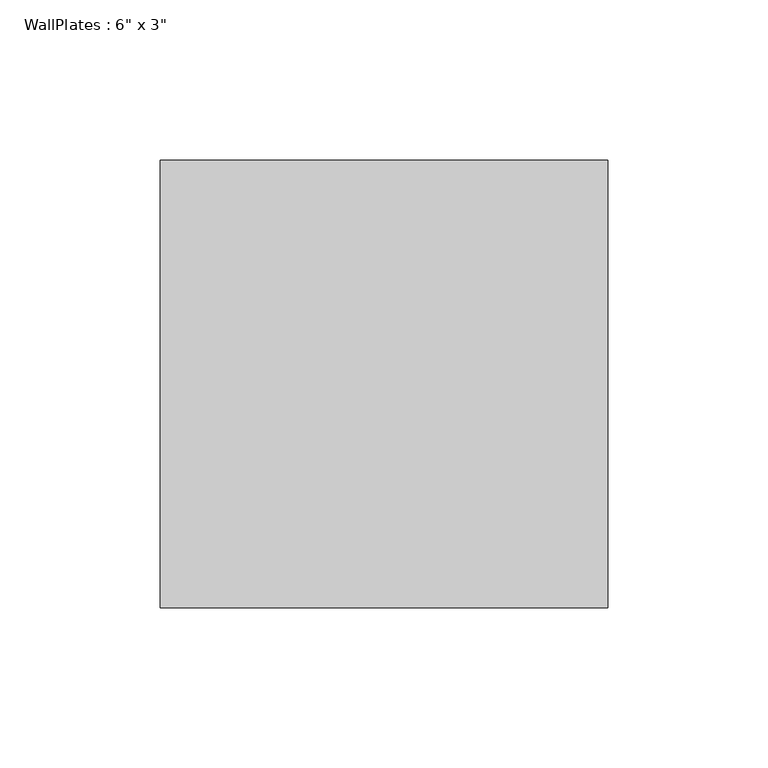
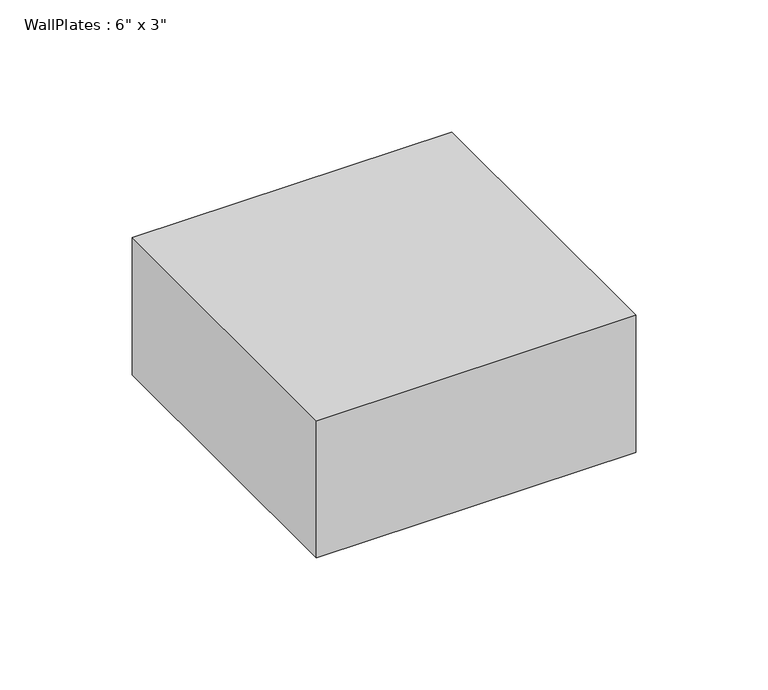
"""IFC4 building model written with IfcOpenShell, lengths in millimetres: beam geometry."""

import ifcopenshell
import ifcopenshell.guid

model = None  # the IFC model being written
_history = None  # IfcOwnerHistory: only IFC2X3 demands one
_inside = {}  # id of a spatial element -> (the spatial element, [elements in it])
_under = {}  # id of a project, library or spatial element -> (it, [spatial elements below it])
_declared = {}  # id of a project -> (the project, [libraries it declares])
_typed = {}  # id of a type object -> (the type object, [elements of that type])
_made_of = {}  # id of a material, layer set ... -> (it, [elements and type objects made of it])


def new_model(schema):
    """Start an empty IFC model of exactly this schema.

    Asked for "IFC4X3", IfcOpenShell would pick the latest addendum, in which some entities
    have other attributes; the version numbers below select the first issue.
    IFC2X3 requires an IfcOwnerHistory on every rooted entity: one is made here for all.
    """
    global model, _history
    if schema == "IFC4X3":
        model = ifcopenshell.file(schema_version=(4, 3, 0, 0))
    else:
        model = ifcopenshell.file(schema=schema)
    _inside.clear()
    _under.clear()
    _declared.clear()
    _typed.clear()
    _made_of.clear()
    _history = None
    if model.schema == "IFC2X3":
        org = make("IfcOrganization", Name="unknown")
        user = make(
            "IfcPersonAndOrganization",
            ThePerson=make("IfcPerson", FamilyName="unknown"),
            TheOrganization=org,
        )
        app = make(
            "IfcApplication",
            ApplicationDeveloper=org,
            Version="unknown",
            ApplicationFullName="unknown",
            ApplicationIdentifier="unknown",
        )
        _history = make(
            "IfcOwnerHistory",
            OwningUser=user,
            OwningApplication=app,
            ChangeAction="ADDED",
            CreationDate=0,
        )
    return model


def make(cls, **values):
    """One entity of the class cls with the attributes given. An attribute that is None is left unset."""
    return model.create_entity(
        cls, **{name: value for name, value in values.items() if value is not None}
    )


def rooted(cls, **values):
    """An entity with a GlobalId (a new one), such as an element, a storey or a relation."""
    return make(cls, GlobalId=ifcopenshell.guid.new(), OwnerHistory=_history, **values)


def si_unit(unit_type, name, prefix=None):
    """IfcSIUnit, for example si_unit("LENGTHUNIT", "METRE", prefix="MILLI")."""
    return make("IfcSIUnit", UnitType=unit_type, Prefix=prefix, Name=name)


def assignment(units):
    """IfcUnitAssignment: the units of a project."""
    return None if units is None else make("IfcUnitAssignment", Units=units)


def point(xyz):
    """IfcCartesianPoint."""
    return None if xyz is None else make("IfcCartesianPoint", Coordinates=xyz)


def direction(xyz):
    """IfcDirection."""
    return None if xyz is None else make("IfcDirection", DirectionRatios=xyz)


def frame(location, z_axis=None, x_axis=None):
    """IfcAxis2Placement3D, a coordinate frame: its origin and axes. An axis left out is left unset."""
    return make(
        "IfcAxis2Placement3D",
        Location=point(location),
        Axis=direction(z_axis),
        RefDirection=direction(x_axis),
    )


def origin():
    """The frame at (0, 0, 0) with its axes left unset."""
    return frame((0.0, 0.0, 0.0))


def place(relative_to, where):
    """IfcLocalPlacement: puts the frame where relative to a parent placement (None: the world)."""
    return make(
        "IfcLocalPlacement", PlacementRelTo=relative_to, RelativePlacement=where
    )


def context(
    kind, dimensions, precision=None, world=None, true_north=None, identifier=None
):
    """IfcGeometricRepresentationContext, for example the 3D "Model" context."""
    return make(
        "IfcGeometricRepresentationContext",
        ContextIdentifier=identifier,
        ContextType=kind,
        CoordinateSpaceDimension=dimensions,
        Precision=precision,
        WorldCoordinateSystem=world,
        TrueNorth=true_north,
    )


def project(units=None, contexts=None):
    """IfcProject with its units and contexts."""
    return rooted(
        "IfcProject",
        Name="project",
        RepresentationContexts=contexts,
        UnitsInContext=assignment(units),
    )


def spatial(cls, under=None, at=None, **own):
    """A site, building, storey or space (cls), placed at a placement, below another one or the project."""
    s = rooted(cls, ObjectPlacement=at, **own)
    if under is not None:
        _under.setdefault(under.id(), (under, []))[1].append(s)
    return s


def polyline(points):
    """IfcPolyline through the points."""
    return make("IfcPolyline", Points=[point(p) for p in points])


def outline(outer, holes=None, kind="AREA"):
    """IfcArbitraryClosedProfileDef: a profile drawn as a closed curve; with holes, ...WithVoids."""
    if holes is None:
        return make("IfcArbitraryClosedProfileDef", ProfileType=kind, OuterCurve=outer)
    return make(
        "IfcArbitraryProfileDefWithVoids",
        ProfileType=kind,
        OuterCurve=outer,
        InnerCurves=holes,
    )


def extrude(swept, where, along, depth):
    """IfcExtrudedAreaSolid: the profile swept, set in the frame where, extruded along a direction by depth."""
    return make(
        "IfcExtrudedAreaSolid",
        SweptArea=swept,
        Position=where,
        ExtrudedDirection=direction(along),
        Depth=depth,
    )


def shape(context_of_items, identifier, shape_type, items):
    """IfcShapeRepresentation: the items that make up one representation, for example the "Body"."""
    return make(
        "IfcShapeRepresentation",
        ContextOfItems=context_of_items,
        RepresentationIdentifier=identifier,
        RepresentationType=shape_type,
        Items=items,
    )


def source(mapping_origin, context_of_items, identifier, shape_type, items):
    """IfcRepresentationMap: a shape defined once, which mapped items show again and again."""
    return make(
        "IfcRepresentationMap",
        MappingOrigin=mapping_origin,
        MappedRepresentation=shape(context_of_items, identifier, shape_type, items),
    )


def transform(
    local_origin,
    x_axis=None,
    y_axis=None,
    z_axis=None,
    scale=None,
    scale2=None,
    scale3=None,
    uniform=True,
):
    """IfcCartesianTransformationOperator3D, or its non-uniform kind. x_axis, y_axis, z_axis: its Axis1, 2, 3."""
    if uniform:
        return make(
            "IfcCartesianTransformationOperator3D",
            Axis1=direction(x_axis),
            Axis2=direction(y_axis),
            LocalOrigin=point(local_origin),
            Scale=scale,
            Axis3=direction(z_axis),
        )
    return make(
        "IfcCartesianTransformationOperator3DnonUniform",
        Axis1=direction(x_axis),
        Axis2=direction(y_axis),
        LocalOrigin=point(local_origin),
        Scale=scale,
        Axis3=direction(z_axis),
        Scale2=scale2,
        Scale3=scale3,
    )


def mapped(mapping_source, mapping_target):
    """IfcMappedItem: shows the shape of a source again, moved by a transform."""
    return make(
        "IfcMappedItem", MappingSource=mapping_source, MappingTarget=mapping_target
    )


def made_of(thing, what):
    """Note that an element or type object is made of a material, layer set ...; save() writes the relation."""
    if what is not None:
        _made_of.setdefault(what.id(), (what, []))[1].append(thing)
    return thing


def element(
    cls,
    number,
    at=None,
    inside=None,
    cuts=None,
    type_object=None,
    material=None,
    context=None,
    identifier="Body",
    shape_type=None,
    held_by="IfcProductDefinitionShape",
    body=None,
    shapes=None,
    **own,
):
    """One element of the class cls, such as IfcWall. Its Tag is "e" and its number.

    at: its placement. inside: the storey or other place that contains it. cuts: it is an
    opening in that element (IfcRelVoidsElement). A single representation is given by context,
    identifier, shape_type and body (its items); several are given by shapes. held_by: the class
    of the entity that holds the representations. save() writes the other relations.
    """
    e = rooted(cls, Tag="e%d" % number, ObjectPlacement=at, **own)
    if body is not None:
        shapes = [shape(context, identifier, shape_type, body)]
    if shapes is not None:
        e.Representation = make(held_by, Representations=shapes)
    if inside is not None:
        _inside.setdefault(inside.id(), (inside, []))[1].append(e)
    if cuts is not None:
        rooted(
            "IfcRelVoidsElement", RelatingBuildingElement=cuts, RelatedOpeningElement=e
        )
    if type_object is not None:
        _typed.setdefault(type_object.id(), (type_object, []))[1].append(e)
    return made_of(e, material)


def aggregate(whole, parts):
    """IfcRelAggregates: a whole, such as a stair, and the parts it consists of."""
    return rooted("IfcRelAggregates", RelatingObject=whole, RelatedObjects=parts)


def save(model, path):
    """Write the relations noted so far, then the file.

    IfcRelAggregates (storeys below a building ...), IfcRelContainedInSpatialStructure (elements
    in a storey), IfcRelDefinesByType, IfcRelAssociatesMaterial and IfcRelDeclares: one each for
    every whole, place, type object, material and project.
    """
    for whole, parts in _under.values():
        aggregate(whole, parts)
    for where, things in _inside.values():
        rooted(
            "IfcRelContainedInSpatialStructure",
            RelatedElements=things,
            RelatingStructure=where,
        )
    for kind, things in _typed.values():
        rooted("IfcRelDefinesByType", RelatedObjects=things, RelatingType=kind)
    for what, things in _made_of.values():
        rooted("IfcRelAssociatesMaterial", RelatedObjects=things, RelatingMaterial=what)
    for by, libraries in _declared.values():
        rooted("IfcRelDeclares", RelatingContext=by, RelatedDefinitions=libraries)
    model.write(path)


def beam_8976df93(model_context):
    return source(origin(), model_context, "Body", "SweptSolid", [
        extrude(outline(polyline([(-69.855, -69.85), (-69.855, 69.85), (69.855, 69.85), (69.855, -69.85), (-69.855, -69.85)])), frame((0.0, 0.0, -31.75), z_axis=(0.0, 0.0, 1.0), x_axis=(1.0, 0.0, 0.0)), (0.0, 0.0, 1.0), 63.5),
    ])


if __name__ == "__main__":
    model = new_model("IFC4")
    model_context = context("Model", 3, world=origin())
    ifc_project = project(units=[si_unit("LENGTHUNIT", "METRE", prefix="MILLI")], contexts=[model_context])
    site = spatial("IfcSite", under=ifc_project)
    building = spatial("IfcBuilding", under=site)
    placement = place(None, origin())
    beam_shape = beam_8976df93(model_context)
    element("IfcBeam", 1, ObjectType="WallPlates : 6\" x 3\"", at=placement, inside=building, context=model_context, shape_type="MappedRepresentation", body=[
        mapped(beam_shape, transform((0.0, 0.0, 0.0), x_axis=(1.0, 0.0, 0.0), y_axis=(0.0, 1.0, 0.0), z_axis=(0.0, 0.0, 1.0))),
    ])
    save(model, "model.ifc")
